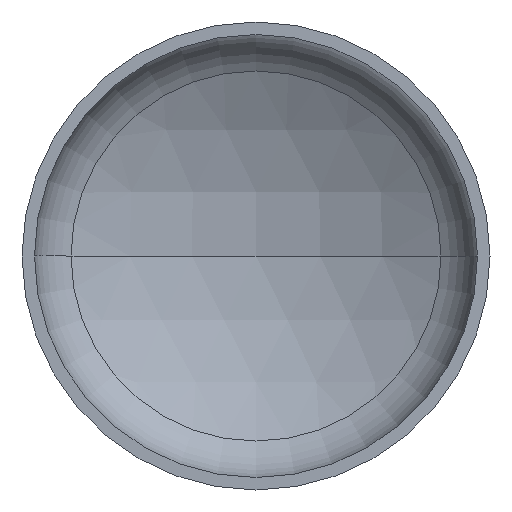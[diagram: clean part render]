
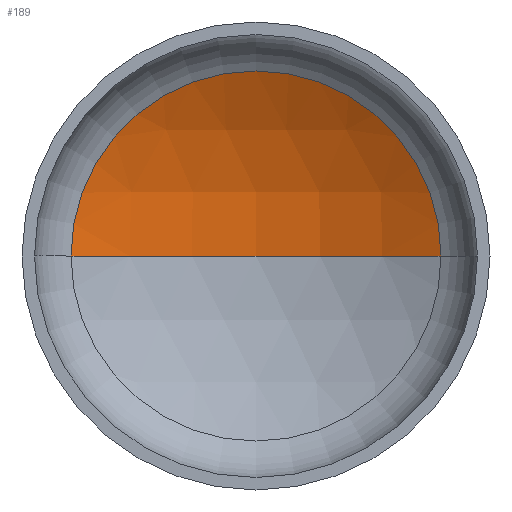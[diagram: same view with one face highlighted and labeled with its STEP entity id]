
A CAD part, front view. The second image highlights one B-rep face of the part: STEP entity #189.
In plain terms, the highlighted spherical face has radius 960 mm.
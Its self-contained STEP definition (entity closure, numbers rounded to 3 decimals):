
#9 = AXIS2_PLACEMENT_3D ( 'NONE', #179, #180, #160 ) ;
#10 = VERTEX_POINT ( 'NONE', #283 ) ;
#28 = ORIENTED_EDGE ( 'NONE', *, *, #170, .T. ) ;
#30 = EDGE_LOOP ( 'NONE', ( #99, #44, #28 ) ) ;
#36 = VERTEX_POINT ( 'NONE', #255 ) ;
#39 = AXIS2_PLACEMENT_3D ( 'NONE', #287, #277, #202 ) ;
#43 = AXIS2_PLACEMENT_3D ( 'NONE', #248, #245, #244 ) ;
#44 = ORIENTED_EDGE ( 'NONE', *, *, #183, .T. ) ;
#52 = AXIS2_PLACEMENT_3D ( 'NONE', #218, #228, #226 ) ;
#59 = VERTEX_POINT ( 'NONE', #306 ) ;
#99 = ORIENTED_EDGE ( 'NONE', *, *, #366, .F. ) ;
#160 = DIRECTION ( 'NONE',  ( 1., 0., 0. ) ) ;
#170 = EDGE_CURVE ( 'NONE', #36, #59, #410, .T. ) ;
#179 = CARTESIAN_POINT ( 'NONE',  ( 0., -573.748, 0. ) ) ;
#180 = DIRECTION ( 'NONE',  ( 0., 0., 1. ) ) ;
#183 = EDGE_CURVE ( 'NONE', #10, #36, #295, .T. ) ;
#189 = ADVANCED_FACE ( 'NONE', ( #349 ), #232, .F. ) ;
#202 = DIRECTION ( 'NONE',  ( -1., 0., 0. ) ) ;
#218 = CARTESIAN_POINT ( 'NONE',  ( 0., 260.83, 0. ) ) ;
#226 = DIRECTION ( 'NONE',  ( 1., 0., 0. ) ) ;
#228 = DIRECTION ( 'NONE',  ( 0., -1., 0. ) ) ;
#232 = SPHERICAL_SURFACE ( 'NONE', #39, 960. ) ;
#244 = DIRECTION ( 'NONE',  ( -1., 0., 0. ) ) ;
#245 = DIRECTION ( 'NONE',  ( 0., 0., -1. ) ) ;
#248 = CARTESIAN_POINT ( 'NONE',  ( 0., -573.748, 0. ) ) ;
#255 = CARTESIAN_POINT ( 'NONE',  ( 474.426, 260.83, 0. ) ) ;
#277 = DIRECTION ( 'NONE',  ( 0., 0., -1. ) ) ;
#283 = CARTESIAN_POINT ( 'NONE',  ( 0., 386.252, 0. ) ) ;
#287 = CARTESIAN_POINT ( 'NONE',  ( 0., -573.748, 0. ) ) ;
#295 = CIRCLE ( 'NONE', #43, 960. ) ;
#306 = CARTESIAN_POINT ( 'NONE',  ( -474.426, 260.83, 0. ) ) ;
#322 = CIRCLE ( 'NONE', #9, 960. ) ;
#349 = FACE_OUTER_BOUND ( 'NONE', #30, .T. ) ;
#366 = EDGE_CURVE ( 'NONE', #10, #59, #322, .T. ) ;
#410 = CIRCLE ( 'NONE', #52, 474.426 ) ;
